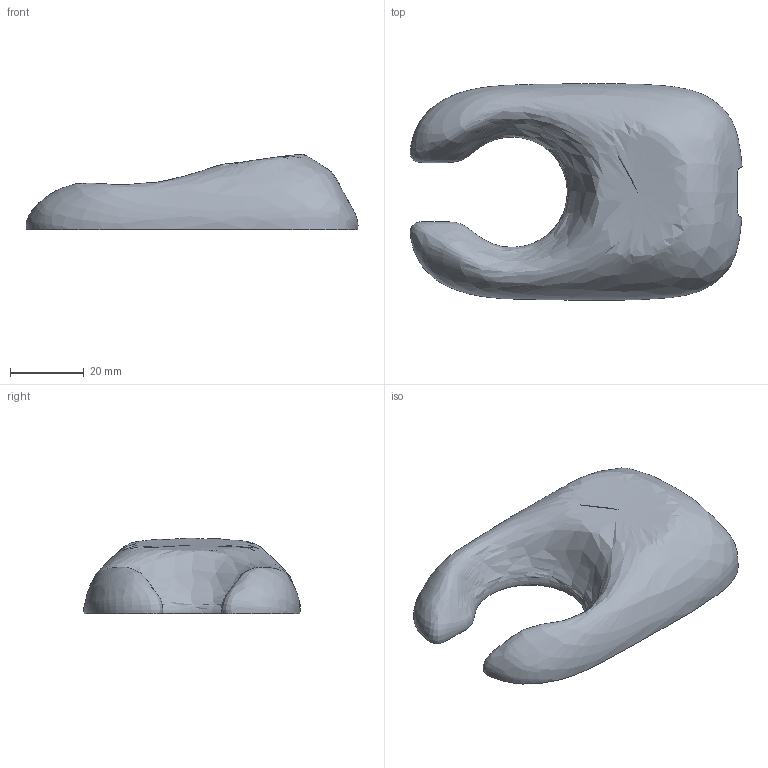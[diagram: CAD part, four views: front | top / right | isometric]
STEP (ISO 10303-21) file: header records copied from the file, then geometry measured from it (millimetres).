
FILE_DESCRIPTION(('Open CASCADE Model'),'2;1');
FILE_NAME('Open CASCADE Shape Model','2026-10-12T02:20:36',('Author'),( 'Open CASCADE'),'Open CASCADE STEP processor 8.0','build123d', 'Unknown');
FILE_SCHEMA(('AUTOMOTIVE_DESIGN { 1 0 10303 214 1 1 1 1 }'));
Products named in the file (1): SOLID
Bounding box: 90.14 x 58.77 x 20.49 mm (x, y, z)
Volume: 13901.9 mm3; surface area: 14542.5 mm2
Topology: 1 solids, 1 shells, 456 faces, 1329 edges, 886 vertices
Faces by surface type: plane 437, cylinder 16, bspline 3
Full cylindrical faces by diameter (mm): 6.5 x4, 6.6 x4, 9.55 x2
Entity records: 107081 total; most frequent: CARTESIAN_POINT 85576, ORIENTED_EDGE 2654, PCURVE 2654, DEFINITIONAL_REPRESENTATION 2654, B_SPLINE_CURVE_WITH_KNOTS 2592, DIRECTION 2319, LINE 1341, VECTOR 1341
